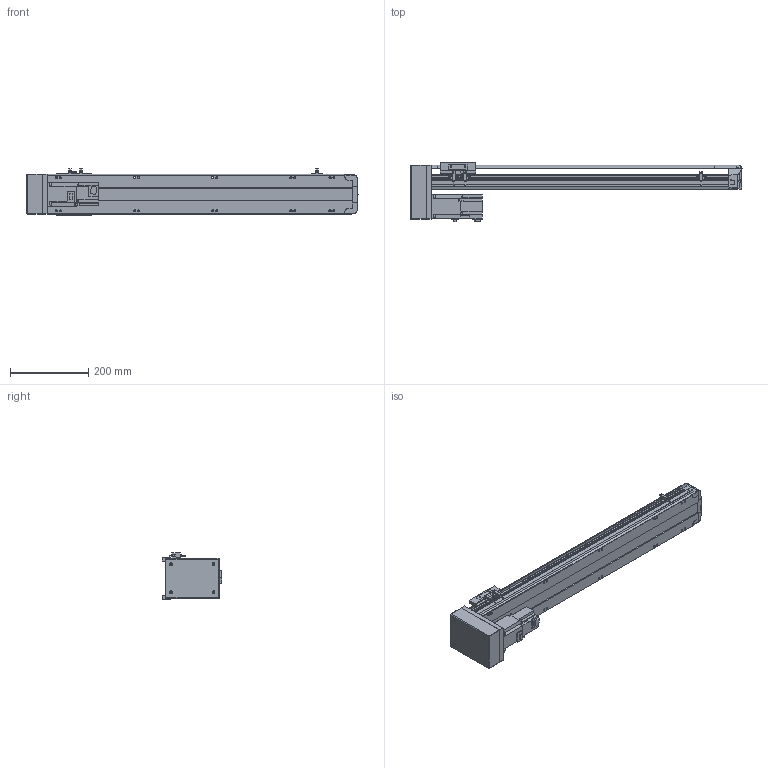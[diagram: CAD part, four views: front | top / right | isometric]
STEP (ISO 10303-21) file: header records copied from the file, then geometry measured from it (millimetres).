
FILE_DESCRIPTION(/* description */ ('STEP AP214'),/* implementation_level */ '2;1');
FILE_NAME(/* name */ 'PSS120-L10-S600-BM-T40-C1-N(0)',/* time_stamp */ '2022-06-06T02:26:42+02:00',/* author */ ('License CC BY-ND 4.0'),/* organization */ ('CADENAS'),/* preprocessor_version */ 'ST-DEVELOPER v18.102',/* originating_system */ 'PARTsolutions',/* authorisation */ ' ');
FILE_SCHEMA (('AUTOMOTIVE_DESIGN {1 0 10303 214 3 1 1}'));
Length unit declared in the file: millimetre
Products named in the file (8): PSS120-L10-S600-BM-T40-C1-N(0); PSS120-S600-BM-N_S; T40-p1; PSS120BM-N_h; PSS120-N_sensor; PSS120-BM-C1-N_sl; PSS120-N_Q; PSS120-S600-BM-C1-N_body
Assembly tree (9 placements, depth 2):
  PSS120-L10-S600-BM-T40-C1-N(0)
    PSS120-S600-BM-N_S
    T40-p1
    PSS120BM-N_h
    PSS120-N_sensor  x3
    PSS120-BM-C1-N_sl
    PSS120-N_Q
    PSS120-S600-BM-C1-N_body
Bounding box: 849.35 x 151.8 x 117.7 mm (x, y, z)
Volume: 3663922.4 mm3; surface area: 598572.3 mm2
Topology: 9 solids, 9 shells, 825 faces, 2221 edges, 1474 vertices
Faces by surface type: plane 574, cylinder 229, cone 18, sphere 4
Full cylindrical faces by diameter (mm): 2.8 x3, 4 x4, 4.134 x14, 4.4 x2, 4.5 x4, 4.6 x3, 5 x6, 5.5 x17, 7 x2, 7.4 x4, 8 x4, 8.5 x14, 14 x1, 28 x1, 32 x2, 50 x1
Entity records: 22295 total; most frequent: CARTESIAN_POINT 4050, DIRECTION 3705, ORIENTED_EDGE 3634, EDGE_CURVE 1817, LINE 1295, VECTOR 1295, VERTEX_POINT 1262, AXIS2_PLACEMENT_3D 1205
